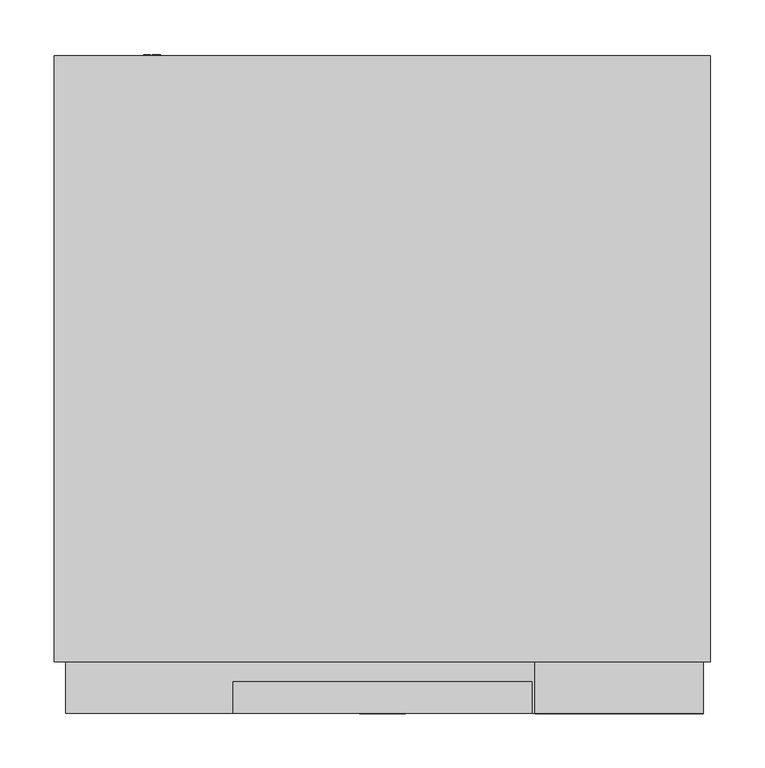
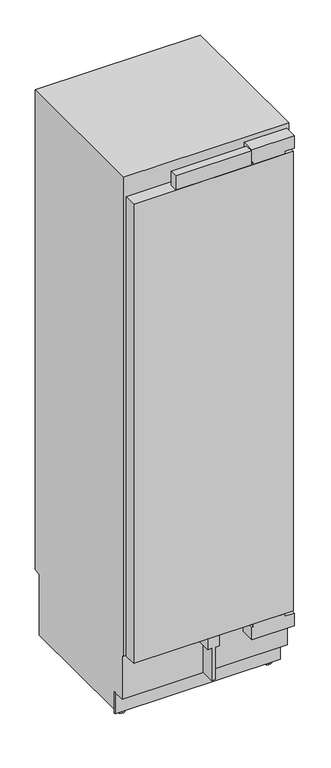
"""IFC4 building model written with IfcOpenShell, lengths in millimetres: proxy geometry, 11501360_USA_K2602Vi : 36260201_USA_11501360_K2602Vi."""

import ifcopenshell
import ifcopenshell.guid

model = None  # the IFC model being written
_history = None  # IfcOwnerHistory: only IFC2X3 demands one
_inside = {}  # id of a spatial element -> (the spatial element, [elements in it])
_under = {}  # id of a project, library or spatial element -> (it, [spatial elements below it])
_declared = {}  # id of a project -> (the project, [libraries it declares])
_typed = {}  # id of a type object -> (the type object, [elements of that type])
_made_of = {}  # id of a material, layer set ... -> (it, [elements and type objects made of it])


def new_model(schema):
    """Start an empty IFC model of exactly this schema.

    Asked for "IFC4X3", IfcOpenShell would pick the latest addendum, in which some entities
    have other attributes; the version numbers below select the first issue.
    IFC2X3 requires an IfcOwnerHistory on every rooted entity: one is made here for all.
    """
    global model, _history
    if schema == "IFC4X3":
        model = ifcopenshell.file(schema_version=(4, 3, 0, 0))
    else:
        model = ifcopenshell.file(schema=schema)
    _inside.clear()
    _under.clear()
    _declared.clear()
    _typed.clear()
    _made_of.clear()
    _history = None
    if model.schema == "IFC2X3":
        org = make("IfcOrganization", Name="unknown")
        user = make(
            "IfcPersonAndOrganization",
            ThePerson=make("IfcPerson", FamilyName="unknown"),
            TheOrganization=org,
        )
        app = make(
            "IfcApplication",
            ApplicationDeveloper=org,
            Version="unknown",
            ApplicationFullName="unknown",
            ApplicationIdentifier="unknown",
        )
        _history = make(
            "IfcOwnerHistory",
            OwningUser=user,
            OwningApplication=app,
            ChangeAction="ADDED",
            CreationDate=0,
        )
    return model


def make(cls, **values):
    """One entity of the class cls with the attributes given. An attribute that is None is left unset."""
    return model.create_entity(
        cls, **{name: value for name, value in values.items() if value is not None}
    )


def rooted(cls, **values):
    """An entity with a GlobalId (a new one), such as an element, a storey or a relation."""
    return make(cls, GlobalId=ifcopenshell.guid.new(), OwnerHistory=_history, **values)


def si_unit(unit_type, name, prefix=None):
    """IfcSIUnit, for example si_unit("LENGTHUNIT", "METRE", prefix="MILLI")."""
    return make("IfcSIUnit", UnitType=unit_type, Prefix=prefix, Name=name)


def assignment(units):
    """IfcUnitAssignment: the units of a project."""
    return None if units is None else make("IfcUnitAssignment", Units=units)


def point(xyz):
    """IfcCartesianPoint."""
    return None if xyz is None else make("IfcCartesianPoint", Coordinates=xyz)


def direction(xyz):
    """IfcDirection."""
    return None if xyz is None else make("IfcDirection", DirectionRatios=xyz)


def frame(location, z_axis=None, x_axis=None):
    """IfcAxis2Placement3D, a coordinate frame: its origin and axes. An axis left out is left unset."""
    return make(
        "IfcAxis2Placement3D",
        Location=point(location),
        Axis=direction(z_axis),
        RefDirection=direction(x_axis),
    )


def frame_2d(location, x_axis=None):
    """IfcAxis2Placement2D, a coordinate frame in the plane: its origin and x axis."""
    return make(
        "IfcAxis2Placement2D", Location=point(location), RefDirection=direction(x_axis)
    )


def origin():
    """The frame at (0, 0, 0) with its axes left unset."""
    return frame((0.0, 0.0, 0.0))


def place(relative_to, where):
    """IfcLocalPlacement: puts the frame where relative to a parent placement (None: the world)."""
    return make(
        "IfcLocalPlacement", PlacementRelTo=relative_to, RelativePlacement=where
    )


def context(
    kind, dimensions, precision=None, world=None, true_north=None, identifier=None
):
    """IfcGeometricRepresentationContext, for example the 3D "Model" context."""
    return make(
        "IfcGeometricRepresentationContext",
        ContextIdentifier=identifier,
        ContextType=kind,
        CoordinateSpaceDimension=dimensions,
        Precision=precision,
        WorldCoordinateSystem=world,
        TrueNorth=true_north,
    )


def project(units=None, contexts=None):
    """IfcProject with its units and contexts."""
    return rooted(
        "IfcProject",
        Name="project",
        RepresentationContexts=contexts,
        UnitsInContext=assignment(units),
    )


def spatial(cls, under=None, at=None, **own):
    """A site, building, storey or space (cls), placed at a placement, below another one or the project."""
    s = rooted(cls, ObjectPlacement=at, **own)
    if under is not None:
        _under.setdefault(under.id(), (under, []))[1].append(s)
    return s


def polyline(points):
    """IfcPolyline through the points."""
    return make("IfcPolyline", Points=[point(p) for p in points])


def circle_curve(where, radius):
    """IfcCircle in the frame where."""
    return make("IfcCircle", Position=where, Radius=radius)


def trimmed(basis, trim1, trim2, sense, master):
    """IfcTrimmedCurve: the piece of a basis curve between two trims."""
    return make(
        "IfcTrimmedCurve",
        BasisCurve=basis,
        Trim1=trim1,
        Trim2=trim2,
        SenseAgreement=sense,
        MasterRepresentation=master,
    )


def segment(curve, same_sense, transition):
    """IfcCompositeCurveSegment."""
    return make(
        "IfcCompositeCurveSegment",
        Transition=transition,
        SameSense=same_sense,
        ParentCurve=curve,
    )


def composite_curve(segments, self_intersect=None):
    """IfcCompositeCurve: segments joined end to end."""
    return make("IfcCompositeCurve", Segments=segments, SelfIntersect=self_intersect)


def outline(outer, holes=None, kind="AREA"):
    """IfcArbitraryClosedProfileDef: a profile drawn as a closed curve; with holes, ...WithVoids."""
    if holes is None:
        return make("IfcArbitraryClosedProfileDef", ProfileType=kind, OuterCurve=outer)
    return make(
        "IfcArbitraryProfileDefWithVoids",
        ProfileType=kind,
        OuterCurve=outer,
        InnerCurves=holes,
    )


def extrude(swept, where, along, depth):
    """IfcExtrudedAreaSolid: the profile swept, set in the frame where, extruded along a direction by depth."""
    return make(
        "IfcExtrudedAreaSolid",
        SweptArea=swept,
        Position=where,
        ExtrudedDirection=direction(along),
        Depth=depth,
    )


def shape(context_of_items, identifier, shape_type, items):
    """IfcShapeRepresentation: the items that make up one representation, for example the "Body"."""
    return make(
        "IfcShapeRepresentation",
        ContextOfItems=context_of_items,
        RepresentationIdentifier=identifier,
        RepresentationType=shape_type,
        Items=items,
    )


def source(mapping_origin, context_of_items, identifier, shape_type, items):
    """IfcRepresentationMap: a shape defined once, which mapped items show again and again."""
    return make(
        "IfcRepresentationMap",
        MappingOrigin=mapping_origin,
        MappedRepresentation=shape(context_of_items, identifier, shape_type, items),
    )


def transform(
    local_origin,
    x_axis=None,
    y_axis=None,
    z_axis=None,
    scale=None,
    scale2=None,
    scale3=None,
    uniform=True,
):
    """IfcCartesianTransformationOperator3D, or its non-uniform kind. x_axis, y_axis, z_axis: its Axis1, 2, 3."""
    if uniform:
        return make(
            "IfcCartesianTransformationOperator3D",
            Axis1=direction(x_axis),
            Axis2=direction(y_axis),
            LocalOrigin=point(local_origin),
            Scale=scale,
            Axis3=direction(z_axis),
        )
    return make(
        "IfcCartesianTransformationOperator3DnonUniform",
        Axis1=direction(x_axis),
        Axis2=direction(y_axis),
        LocalOrigin=point(local_origin),
        Scale=scale,
        Axis3=direction(z_axis),
        Scale2=scale2,
        Scale3=scale3,
    )


def mapped(mapping_source, mapping_target):
    """IfcMappedItem: shows the shape of a source again, moved by a transform."""
    return make(
        "IfcMappedItem", MappingSource=mapping_source, MappingTarget=mapping_target
    )


def made_of(thing, what):
    """Note that an element or type object is made of a material, layer set ...; save() writes the relation."""
    if what is not None:
        _made_of.setdefault(what.id(), (what, []))[1].append(thing)
    return thing


def element(
    cls,
    number,
    at=None,
    inside=None,
    cuts=None,
    type_object=None,
    material=None,
    context=None,
    identifier="Body",
    shape_type=None,
    held_by="IfcProductDefinitionShape",
    body=None,
    shapes=None,
    **own,
):
    """One element of the class cls, such as IfcWall. Its Tag is "e" and its number.

    at: its placement. inside: the storey or other place that contains it. cuts: it is an
    opening in that element (IfcRelVoidsElement). A single representation is given by context,
    identifier, shape_type and body (its items); several are given by shapes. held_by: the class
    of the entity that holds the representations. save() writes the other relations.
    """
    e = rooted(cls, Tag="e%d" % number, ObjectPlacement=at, **own)
    if body is not None:
        shapes = [shape(context, identifier, shape_type, body)]
    if shapes is not None:
        e.Representation = make(held_by, Representations=shapes)
    if inside is not None:
        _inside.setdefault(inside.id(), (inside, []))[1].append(e)
    if cuts is not None:
        rooted(
            "IfcRelVoidsElement", RelatingBuildingElement=cuts, RelatedOpeningElement=e
        )
    if type_object is not None:
        _typed.setdefault(type_object.id(), (type_object, []))[1].append(e)
    return made_of(e, material)


def aggregate(whole, parts):
    """IfcRelAggregates: a whole, such as a stair, and the parts it consists of."""
    return rooted("IfcRelAggregates", RelatingObject=whole, RelatedObjects=parts)


def save(model, path):
    """Write the relations noted so far, then the file.

    IfcRelAggregates (storeys below a building ...), IfcRelContainedInSpatialStructure (elements
    in a storey), IfcRelDefinesByType, IfcRelAssociatesMaterial and IfcRelDeclares: one each for
    every whole, place, type object, material and project.
    """
    for whole, parts in _under.values():
        aggregate(whole, parts)
    for where, things in _inside.values():
        rooted(
            "IfcRelContainedInSpatialStructure",
            RelatedElements=things,
            RelatingStructure=where,
        )
    for kind, things in _typed.values():
        rooted("IfcRelDefinesByType", RelatedObjects=things, RelatingType=kind)
    for what, things in _made_of.values():
        rooted("IfcRelAssociatesMaterial", RelatedObjects=things, RelatingMaterial=what)
    for by, libraries in _declared.values():
        rooted("IfcRelDeclares", RelatingContext=by, RelatedDefinitions=libraries)
    model.write(path)


def plane_surface(at):
    """IfcPlane: the flat surface through the origin of the frame at, square to its z axis."""
    return make("IfcPlane", Position=at)


def cylinder_surface(at, radius):
    """IfcCylindricalSurface: all points at the distance radius from the z axis of the frame at."""
    return make("IfcCylindricalSurface", Position=at, Radius=radius)


def advanced_brep(points, edges, surfaces, faces):
    """IfcAdvancedBrep: a solid bounded by faces that lie on surfaces and meet in shared edges.

    An edge is (start, end): straight between two places in points (the first is 0);
    or (start, end, curve); or (start, end, curve, False) where it runs against its curve.
    A face is (place in surfaces, loops), or (place, loops, False) where it looks against
    its surface's normal. A loop lists edges by number (the first is 1), with a minus sign
    where the edge is run from its end to its start. The first loop is the outer one.
    """
    corners = [point(p) for p in points]
    vertices = [make("IfcVertexPoint", VertexGeometry=c) for c in corners]
    made = []
    for start, end, *more in edges:
        made.append(
            make(
                "IfcEdgeCurve",
                EdgeStart=vertices[start],
                EdgeEnd=vertices[end],
                EdgeGeometry=more[0] if more else make("IfcPolyline", Points=[corners[start], corners[end]]),
                SameSense=more[1] if len(more) > 1 else True,
            )
        )
    hull = []
    for where, loops, *sense in faces:
        bounds = []
        for j, loop in enumerate(loops):
            ring = [make("IfcOrientedEdge", EdgeElement=made[abs(k) - 1], Orientation=k > 0) for k in loop]
            bounds.append(
                make(
                    "IfcFaceOuterBound" if j == 0 else "IfcFaceBound",
                    Bound=make("IfcEdgeLoop", EdgeList=ring),
                    Orientation=True,
                )
            )
        hull.append(make("IfcAdvancedFace", Bounds=bounds, FaceSurface=surfaces[where], SameSense=sense[0] if sense else True))
    return make("IfcAdvancedBrep", Outer=make("IfcClosedShell", CfsFaces=hull))


def specialty_equipment_70aed38f(model_context):
    return source(origin(), model_context, "Body", "SolidModel", [
        extrude(outline(polyline([(-291.0, 47.0), (291.0, 47.0), (291.0, 0.0), (-291.0, 0.0), (-291.0, 47.0)])), frame((0.0, 0.0, 265.0), z_axis=(0.0, 0.0, 1.0), x_axis=(1.0, 0.0, 0.0)), (0.0, 0.0, 1.0), 1771.0),
        extrude(outline(polyline([(-137.5, 29.0), (137.5, 29.0), (137.5, 0.0), (-137.5, 0.0), (-137.5, 29.0)])), frame((0.0, 0.0, 2036.0), z_axis=(0.0, 0.0, 1.0), x_axis=(1.0, 0.0, 0.0)), (0.0, 0.0, 1.0), 56.0),
        extrude(outline(polyline([(265.0, 21.0), (265.0, 0.0), (265.0, -21.0), (224.0, -21.0), (224.0, -6.5), (99.0, -6.5), (99.0, 0.0), (99.0, 6.5), (224.0, 6.5), (224.0, 21.0), (265.0, 21.0)])), frame((0.0, 0.0, 0.0), z_axis=(0.0, 1.0, 0.0), x_axis=(0.0, 0.0, 1.0)), (0.0, 0.0, 1.0), 54.0),
        extrude(outline(polyline([(87.0, 1998.0), (544.0, 1998.0), (544.0, 1791.0), (475.0, 1791.0), (447.0, 1868.0), (201.3701279, 1868.0), (156.3150905, 1940.0880598), (87.0, 1949.0), (87.0, 1998.0)])), frame((-255.5, 0.0, 0.0), z_axis=(1.0, 0.0, 0.0), x_axis=(0.0, 1.0, 0.0)), (0.0, 0.0, 1.0), 511.0),
        extrude(outline(polyline([(196.9886114, 1875.0), (195.809433, 1875.0), (158.6921935, 1934.4), (159.8713719, 1934.4), (196.9886114, 1875.0)])), frame((-69.0, 0.0, 0.0), z_axis=(1.0, 0.0, 0.0), x_axis=(0.0, 1.0, 0.0)), (0.0, 0.0, 1.0), 138.0),
        extrude(outline(polyline([(2095.0, 295.0), (2095.0, 140.0), (2047.0, 140.0), (2047.0, 146.0), (2036.5, 146.0), (2036.5, 261.0), (2047.0, 261.0), (2047.0, 295.0), (2095.0, 295.0)])), frame((0.0, 0.0, 0.0), z_axis=(0.0, 1.0, 0.0), x_axis=(0.0, 0.0, 1.0)), (0.0, 0.0, 1.0), 47.0),
        extrude(outline(polyline([(254.0, 140.0), (206.0, 140.0), (206.0, 295.0), (254.0, 295.0), (254.0, 261.0), (264.0, 261.0), (264.0, 146.0), (254.0, 146.0), (254.0, 140.0)])), frame((0.0, 0.0, 0.0), z_axis=(0.0, 1.0, 0.0), x_axis=(0.0, 0.0, 1.0)), (0.0, 0.0, 1.0), 54.0),
        extrude(outline(polyline([(99.0373308, -211.2645771), (97.7615342, -211.2645771), (97.7615342, -205.3195541), (94.7968516, -205.3195541), (94.7968516, -210.969579), (93.5246295, -210.969579), (93.5246295, -205.3415693), (90.2570046, -205.3415693), (90.2570046, -211.4619689), (88.9546219, -211.4619689), (88.9546219, -204.0443524), (99.0373308, -204.0443524), (99.0373308, -211.2645771)])), frame((0.0, 604.0, 0.0), z_axis=(0.0, 1.0, 0.0), x_axis=(0.0, 0.0, 1.0)), (0.0, 0.0, 1.0), 1.0),
        extrude(outline(polyline([(99.0458, -214.5619704), (90.2663944, -214.5619704), (90.2663944, -219.6145879), (89.0134802, -219.6145879), (89.0134802, -213.3423809), (99.0458, -213.3423809), (99.0458, -214.5619704)])), frame((0.0, 604.0, 0.0), z_axis=(0.0, 1.0, 0.0), x_axis=(0.0, 0.0, 1.0)), (0.0, 0.0, 1.0), 1.0),
        extrude(outline(composite_curve([segment(trimmed(circle_curve(frame_2d((94.0, -211.5)), 7.5), [point((86.5, -211.5))], [point((101.5, -211.5))], False, "CARTESIAN"), True, "CONTINUOUS"), segment(trimmed(circle_curve(frame_2d((94.0, -211.5)), 7.5), [point((101.5, -211.5))], [point((86.5, -211.5))], False, "CARTESIAN"), True, "CONTINUOUS")], self_intersect=False)), frame((0.0, 577.0, 0.0), z_axis=(0.0, 1.0, 0.0), x_axis=(0.0, 0.0, 1.0)), (0.0, 0.0, 1.0), 27.0),
        extrude(outline(polyline([(-301.5, 104.0), (301.5, 104.0), (301.5, 99.0), (-301.5, 99.0), (-301.5, 104.0)])), frame((0.0, 0.0, 14.0), z_axis=(0.0, 0.0, 1.0), x_axis=(1.0, 0.0, 0.0)), (0.0, 0.0, 1.0), 83.0),
        advanced_brep(
        [(-267.5, 139.0, 0.0), (-267.5, 109.0, 0.0), (-267.5, 139.0, 7.0), (-267.5, 109.0, 7.0), (-267.5, 128.7, 7.0), (-267.5, 119.3, 7.0), (-267.5, 128.7, 28.0), (-267.5, 119.3, 28.0)],
        [
            (0, 1, circle_curve(frame((-267.5, 124.0, 0.0), z_axis=(0.0, 0.0, -1.0), x_axis=(1.0, 0.0, 0.0)), 15.0)),
            (1, 0, circle_curve(frame((-267.5, 124.0, 0.0), z_axis=(0.0, 0.0, -1.0), x_axis=(1.0, 0.0, 0.0)), 15.0)),
            (2, 3, circle_curve(frame((-267.5, 124.0, 7.0), z_axis=(0.0, 0.0, 1.0), x_axis=(1.0, 0.0, 0.0)), 15.0)),
            (3, 2, circle_curve(frame((-267.5, 124.0, 7.0), z_axis=(0.0, 0.0, 1.0), x_axis=(1.0, 0.0, 0.0)), 15.0)),
            (4, 5, circle_curve(frame((-267.5, 124.0, 7.0), z_axis=(0.0, 0.0, -1.0), x_axis=(0.0, -1.0, 0.0)), 4.7)),
            (5, 4, circle_curve(frame((-267.5, 124.0, 7.0), z_axis=(0.0, 0.0, -1.0), x_axis=(0.0, -1.0, 0.0)), 4.7)),
            (0, 2),
            (3, 1),
            (6, 7, circle_curve(frame((-267.5, 124.0, 28.0), z_axis=(0.0, 0.0, 1.0), x_axis=(0.0, -1.0, 0.0)), 4.7)),
            (7, 6, circle_curve(frame((-267.5, 124.0, 28.0), z_axis=(0.0, 0.0, 1.0), x_axis=(0.0, -1.0, 0.0)), 4.7)),
            (7, 5),
            (4, 6),
        ],
        [
            plane_surface(frame((-252.5, 124.0, 0.0), z_axis=(0.0, 0.0, -1.0), x_axis=(0.0, -1.0, 0.0))),
            plane_surface(frame((-252.5, 124.0, 7.0), z_axis=(0.0, 0.0, 1.0), x_axis=(0.0, 1.0, 0.0))),
            cylinder_surface(frame((-267.5, 124.0, 7.0), z_axis=(0.0, 0.0, -1.0), x_axis=(1.0, 0.0, 0.0)), 15.0),
            plane_surface(frame((-267.5, 119.3, 28.0), z_axis=(0.0, 0.0, 1.0), x_axis=(1.0, 0.0, 0.0))),
            cylinder_surface(frame((-267.5, 124.0, 28.0), z_axis=(0.0, 0.0, -1.0), x_axis=(0.0, -1.0, 0.0)), 4.7),
        ],
        [
            (0, [[1, 2]]),
            (1, [[3, 4], [5, 6]]),
            (2, [[-1, 7, -4, 8]]),
            (2, [[-2, -8, -3, -7]]),
            (3, [[9, 10]]),
            (4, [[-10, 11, -5, 12]]),
            (4, [[-9, -12, -6, -11]]),
        ],
    ),
        advanced_brep(
        [(267.5, 139.0, 0.0), (267.5, 109.0, 0.0), (267.5, 139.0, 7.0), (267.5, 109.0, 7.0), (267.5, 128.7, 7.0), (267.5, 119.3, 7.0), (267.5, 128.7, 28.0), (267.5, 119.3, 28.0)],
        [
            (0, 1, circle_curve(frame((267.5, 124.0, 0.0), z_axis=(0.0, 0.0, -1.0), x_axis=(1.0, 0.0, 0.0)), 15.0)),
            (1, 0, circle_curve(frame((267.5, 124.0, 0.0), z_axis=(0.0, 0.0, -1.0), x_axis=(1.0, 0.0, 0.0)), 15.0)),
            (2, 3, circle_curve(frame((267.5, 124.0, 7.0), z_axis=(0.0, 0.0, 1.0), x_axis=(1.0, 0.0, 0.0)), 15.0)),
            (3, 2, circle_curve(frame((267.5, 124.0, 7.0), z_axis=(0.0, 0.0, 1.0), x_axis=(1.0, 0.0, 0.0)), 15.0)),
            (4, 5, circle_curve(frame((267.5, 124.0, 7.0), z_axis=(0.0, 0.0, -1.0), x_axis=(0.0, -1.0, 0.0)), 4.7)),
            (5, 4, circle_curve(frame((267.5, 124.0, 7.0), z_axis=(0.0, 0.0, -1.0), x_axis=(0.0, -1.0, 0.0)), 4.7)),
            (0, 2),
            (3, 1),
            (6, 7, circle_curve(frame((267.5, 124.0, 28.0), z_axis=(0.0, 0.0, 1.0), x_axis=(0.0, -1.0, 0.0)), 4.7)),
            (7, 6, circle_curve(frame((267.5, 124.0, 28.0), z_axis=(0.0, 0.0, 1.0), x_axis=(0.0, -1.0, 0.0)), 4.7)),
            (7, 5),
            (4, 6),
        ],
        [
            plane_surface(frame((-252.5, 124.0, 0.0), z_axis=(0.0, 0.0, -1.0), x_axis=(0.0, -1.0, 0.0))),
            plane_surface(frame((-252.5, 124.0, 7.0), z_axis=(0.0, 0.0, 1.0), x_axis=(0.0, 1.0, 0.0))),
            cylinder_surface(frame((267.5, 124.0, 7.0), z_axis=(0.0, 0.0, -1.0), x_axis=(1.0, 0.0, 0.0)), 15.0),
            plane_surface(frame((-267.5, 119.3, 28.0), z_axis=(0.0, 0.0, 1.0), x_axis=(1.0, 0.0, 0.0))),
            cylinder_surface(frame((267.5, 124.0, 28.0), z_axis=(0.0, 0.0, -1.0), x_axis=(0.0, -1.0, 0.0)), 4.7),
        ],
        [
            (0, [[1, 2]]),
            (1, [[3, 4], [5, 6]]),
            (2, [[-1, 7, -4, 8]]),
            (2, [[-2, -8, -3, -7]]),
            (3, [[9, 10]]),
            (4, [[-10, 11, -5, 12]]),
            (4, [[-9, -12, -6, -11]]),
        ],
    ),
        advanced_brep(
        [(301.5, 47.0, 2114.0), (301.5, 47.0, 267.0), (301.5, 54.0, 267.0), (301.5, 54.0, 97.0), (301.5, 104.0, 97.0), (301.5, 104.0, 28.0), (301.5, 577.0, 28.0), (301.5, 577.0, 263.0), (301.5, 604.0, 263.0), (301.5, 604.0, 2114.0), (-301.5, 47.0, 2114.0), (-301.5, 604.0, 2114.0), (-301.5, 604.0, 263.0), (-301.5, 577.0, 263.0), (-301.5, 577.0, 28.0), (-301.5, 104.0, 28.0), (-301.5, 104.0, 97.0), (-301.5, 54.0, 97.0), (-301.5, 54.0, 267.0), (-301.5, 47.0, 267.0), (241.5, 577.0, 28.0), (241.5, 577.0, 14.0), (-241.5, 577.0, 14.0), (-241.5, 577.0, 28.0), (241.5, 104.0, 14.0), (-241.5, 104.0, 14.0), (-241.5, 104.0, 28.0), (241.5, 104.0, 28.0), (255.5, 47.0, 1998.0), (255.5, 47.0, 343.0), (-255.5, 47.0, 343.0), (-255.5, 47.0, 1998.0), (255.5, 544.0, 1998.0), (-255.5, 544.0, 1998.0), (-255.5, 544.0, 343.0), (255.5, 544.0, 343.0), (-260.0, 202.8193473, 28.0), (-279.0, 202.8193473, 28.0), (-279.0, 153.1806527, 28.0), (-260.0, 153.1806527, 28.0), (-279.5, 525.8193473, 28.0), (-279.5, 476.1806527, 28.0), (-263.5, 476.1806527, 28.0), (-263.5, 525.8193473, 28.0), (279.0, 153.1806527, 28.0), (279.0, 202.8193473, 28.0), (260.0, 202.8193473, 28.0), (260.0, 153.1806527, 28.0), (263.5, 525.8193473, 28.0), (263.5, 476.1806527, 28.0), (279.5, 476.1806527, 28.0), (279.5, 525.8193473, 28.0), (-260.0, 203.0, 25.0), (-260.0, 153.0, 25.0), (-279.0, 153.0, 25.0), (-279.0, 203.0, 25.0), (-260.0, 178.0, 25.0), (-279.0, 178.0, 25.0), (279.0, 178.0, 25.0), (279.0, 153.0, 25.0), (279.0, 203.0, 25.0), (260.0, 203.0, 25.0), (260.0, 153.0, 25.0), (260.0, 178.0, 25.0), (-279.5, 526.0, 25.0), (-279.5, 476.0, 25.0), (-279.5, 501.0, 25.0), (-263.5, 526.0, 25.0), (-263.5, 476.0, 25.0), (-263.5, 501.0, 25.0), (263.5, 526.0, 25.0), (263.5, 476.0, 25.0), (263.5, 501.0, 25.0), (279.5, 526.0, 25.0), (279.5, 476.0, 25.0), (279.5, 501.0, 25.0)],
        [
            (0, 1),
            (1, 2),
            (2, 3),
            (3, 4),
            (4, 5),
            (5, 6),
            (6, 7),
            (7, 8),
            (8, 9),
            (9, 0),
            (10, 11),
            (11, 12),
            (12, 13),
            (13, 14),
            (14, 15),
            (15, 16),
            (16, 17),
            (17, 18),
            (18, 19),
            (19, 10),
            (9, 11),
            (10, 0),
            (8, 12),
            (7, 13),
            (6, 20),
            (20, 21),
            (21, 22),
            (22, 23),
            (23, 14),
            (21, 24),
            (24, 25),
            (25, 22),
            (4, 16),
            (15, 26),
            (26, 25),
            (24, 27),
            (27, 5),
            (3, 17),
            (2, 18),
            (1, 19),
            (28, 29),
            (29, 30),
            (30, 31),
            (31, 28),
            (32, 33),
            (33, 34),
            (34, 35),
            (35, 32),
            (35, 29),
            (28, 32),
            (34, 30),
            (33, 31),
            (23, 26),
            (36, 37),
            (37, 38),
            (38, 39),
            (39, 36),
            (40, 41),
            (41, 42),
            (42, 43),
            (43, 40),
            (27, 20),
            (44, 45),
            (45, 46),
            (46, 47),
            (47, 44),
            (48, 49),
            (49, 50),
            (50, 51),
            (51, 48),
            (52, 53, circle_curve(frame((-260.0, 178.0, 25.0), z_axis=(-1.0, 0.0, 0.0), x_axis=(0.0, -1.0, 0.0)), 25.0)),
            (53, 54),
            (54, 55, circle_curve(frame((-279.0, 178.0, 25.0), z_axis=(1.0, 0.0, 0.0), x_axis=(0.0, -1.0, 0.0)), 25.0)),
            (55, 52),
            (53, 39, circle_curve(frame((-260.0, 178.0, 25.0), z_axis=(-1.0, 0.0, 0.0), x_axis=(0.0, -1.0, 0.0)), 25.0)),
            (38, 54, circle_curve(frame((-279.0, 178.0, 25.0), z_axis=(1.0, 0.0, 0.0), x_axis=(0.0, -1.0, 0.0)), 25.0)),
            (55, 37, circle_curve(frame((-279.0, 178.0, 25.0), z_axis=(1.0, 0.0, 0.0), x_axis=(0.0, -1.0, 0.0)), 25.0)),
            (36, 52, circle_curve(frame((-260.0, 178.0, 25.0), z_axis=(-1.0, 0.0, 0.0), x_axis=(0.0, -1.0, 0.0)), 25.0)),
            (52, 56),
            (56, 53),
            (54, 57),
            (57, 55),
            (58, 59),
            (59, 60, circle_curve(frame((279.0, 178.0, 25.0), z_axis=(1.0, 0.0, 0.0), x_axis=(0.0, -1.0, 0.0)), 25.0)),
            (60, 58),
            (60, 45, circle_curve(frame((279.0, 178.0, 25.0), z_axis=(1.0, 0.0, 0.0), x_axis=(0.0, -1.0, 0.0)), 25.0)),
            (44, 59, circle_curve(frame((279.0, 178.0, 25.0), z_axis=(1.0, 0.0, 0.0), x_axis=(0.0, -1.0, 0.0)), 25.0)),
            (61, 62, circle_curve(frame((260.0, 178.0, 25.0), z_axis=(-1.0, 0.0, 0.0), x_axis=(0.0, -1.0, 0.0)), 25.0)),
            (62, 63),
            (63, 61),
            (62, 47, circle_curve(frame((260.0, 178.0, 25.0), z_axis=(-1.0, 0.0, 0.0), x_axis=(0.0, -1.0, 0.0)), 25.0)),
            (46, 61, circle_curve(frame((260.0, 178.0, 25.0), z_axis=(-1.0, 0.0, 0.0), x_axis=(0.0, -1.0, 0.0)), 25.0)),
            (64, 65, circle_curve(frame((-279.5, 501.0, 25.0), z_axis=(-1.0, 0.0, 0.0), x_axis=(0.0, -1.0, 0.0)), 25.0)),
            (65, 66),
            (66, 64),
            (65, 41, circle_curve(frame((-279.5, 501.0, 25.0), z_axis=(-1.0, 0.0, 0.0), x_axis=(0.0, -1.0, 0.0)), 25.0)),
            (40, 64, circle_curve(frame((-279.5, 501.0, 25.0), z_axis=(-1.0, 0.0, 0.0), x_axis=(0.0, -1.0, 0.0)), 25.0)),
            (64, 67),
            (67, 68, circle_curve(frame((-263.5, 501.0, 25.0), z_axis=(-1.0, 0.0, 0.0), x_axis=(0.0, -1.0, 0.0)), 25.0)),
            (68, 65),
            (43, 67, circle_curve(frame((-263.5, 501.0, 25.0), z_axis=(-1.0, 0.0, 0.0), x_axis=(0.0, -1.0, 0.0)), 25.0)),
            (68, 42, circle_curve(frame((-263.5, 501.0, 25.0), z_axis=(-1.0, 0.0, 0.0), x_axis=(0.0, -1.0, 0.0)), 25.0)),
            (67, 69),
            (69, 68),
            (70, 71, circle_curve(frame((263.5, 501.0, 25.0), z_axis=(-1.0, 0.0, 0.0), x_axis=(0.0, -1.0, 0.0)), 25.0)),
            (71, 72),
            (72, 70),
            (71, 49, circle_curve(frame((263.5, 501.0, 25.0), z_axis=(-1.0, 0.0, 0.0), x_axis=(0.0, -1.0, 0.0)), 25.0)),
            (48, 70, circle_curve(frame((263.5, 501.0, 25.0), z_axis=(-1.0, 0.0, 0.0), x_axis=(0.0, -1.0, 0.0)), 25.0)),
            (70, 73),
            (73, 74, circle_curve(frame((279.5, 501.0, 25.0), z_axis=(-1.0, 0.0, 0.0), x_axis=(0.0, -1.0, 0.0)), 25.0)),
            (74, 71),
            (51, 73, circle_curve(frame((279.5, 501.0, 25.0), z_axis=(-1.0, 0.0, 0.0), x_axis=(0.0, -1.0, 0.0)), 25.0)),
            (74, 50, circle_curve(frame((279.5, 501.0, 25.0), z_axis=(-1.0, 0.0, 0.0), x_axis=(0.0, -1.0, 0.0)), 25.0)),
            (73, 75),
            (75, 74),
            (59, 62),
            (61, 60),
        ],
        [
            plane_surface(frame((301.5, 604.0, 2114.0), z_axis=(1.0, 0.0, 0.0), x_axis=(0.0, -1.0, 0.0))),
            plane_surface(frame((-301.5, 604.0, 2114.0), z_axis=(-1.0, 0.0, 0.0), x_axis=(0.0, 1.0, 0.0))),
            plane_surface(frame((-301.5, 47.0, 2114.0), z_axis=(0.0, 0.0, 1.0), x_axis=(1.0, 0.0, 0.0))),
            plane_surface(frame((-301.5, 604.0, 2114.0), z_axis=(0.0, 1.0, 0.0), x_axis=(1.0, 0.0, 0.0))),
            plane_surface(frame((-301.5, 604.0, 263.0), z_axis=(0.0, 0.0, -1.0), x_axis=(1.0, 0.0, 0.0))),
            plane_surface(frame((-301.5, 577.0, 263.0), z_axis=(0.0, 1.0, 0.0), x_axis=(1.0, 0.0, 0.0))),
            plane_surface(frame((-301.5, 577.0, 14.0), z_axis=(0.0, 0.0, -1.0), x_axis=(1.0, 0.0, 0.0))),
            plane_surface(frame((-301.5, 104.0, 14.0), z_axis=(0.0, -1.0, 0.0), x_axis=(1.0, 0.0, 0.0))),
            plane_surface(frame((-301.5, 104.0, 97.0), z_axis=(0.0, 0.0, -1.0), x_axis=(1.0, 0.0, 0.0))),
            plane_surface(frame((-301.5, 54.0, 97.0), z_axis=(0.0, -1.0, 0.0), x_axis=(1.0, 0.0, 0.0))),
            plane_surface(frame((-301.5, 54.0, 267.0), z_axis=(0.0, 0.0, -1.0), x_axis=(1.0, 0.0, 0.0))),
            plane_surface(frame((-301.5, 47.0, 267.0), z_axis=(0.0, -1.0, 0.0), x_axis=(1.0, 0.0, 0.0))),
            plane_surface(frame((255.5, 544.0, 1998.0), z_axis=(0.0, -1.0, 0.0), x_axis=(0.0, 0.0, -1.0))),
            plane_surface(frame((255.5, 544.0, 1998.0), z_axis=(-1.0, 0.0, 0.0), x_axis=(0.0, -1.0, 0.0))),
            plane_surface(frame((255.5, 544.0, 343.0), z_axis=(0.0, 0.0, 1.0), x_axis=(0.0, -1.0, 0.0))),
            plane_surface(frame((-255.5, 544.0, 343.0), z_axis=(1.0, 0.0, 0.0), x_axis=(0.0, -1.0, 0.0))),
            plane_surface(frame((-255.5, 544.0, 1998.0), z_axis=(0.0, 0.0, -1.0), x_axis=(0.0, -1.0, 0.0))),
            plane_surface(frame((-301.5, 604.0, 28.0), z_axis=(0.0, 0.0, -1.0), x_axis=(-1.0, 0.0, 0.0))),
            plane_surface(frame((-241.5, 104.0, 28.0), z_axis=(-1.0, 0.0, 0.0), x_axis=(0.0, 0.0, -1.0))),
            plane_surface(frame((241.5, 604.0, 28.0), z_axis=(1.0, 0.0, 0.0), x_axis=(0.0, 0.0, -1.0))),
            cylinder_surface(frame((-394.1988927, 178.0, 25.0), z_axis=(1.0, 0.0, 0.0), x_axis=(0.0, -1.0, 0.0)), 25.0),
            plane_surface(frame((-260.0, 178.0, 25.0), z_axis=(1.0, 0.0, 0.0), x_axis=(0.0, -1.0, 0.0))),
            plane_surface(frame((-279.0, 178.0, 25.0), z_axis=(-1.0, 0.0, 0.0), x_axis=(0.0, -1.0, 0.0))),
            plane_surface(frame((279.0, 178.0, 25.0), z_axis=(1.0, 0.0, 0.0), x_axis=(0.0, -1.0, 0.0))),
            plane_surface(frame((260.0, 178.0, 25.0), z_axis=(-1.0, 0.0, 0.0), x_axis=(0.0, -1.0, 0.0))),
            plane_surface(frame((-279.5, 501.0, 25.0), z_axis=(-1.0, 0.0, 0.0), x_axis=(0.0, -1.0, 0.0))),
            cylinder_surface(frame((-394.1988927, 501.0, 25.0), z_axis=(1.0, 0.0, 0.0), x_axis=(0.0, -1.0, 0.0)), 25.0),
            plane_surface(frame((-263.5, 501.0, 25.0), z_axis=(1.0, 0.0, 0.0), x_axis=(0.0, -1.0, 0.0))),
            plane_surface(frame((263.5, 501.0, 25.0), z_axis=(-1.0, 0.0, 0.0), x_axis=(0.0, -1.0, 0.0))),
            plane_surface(frame((279.5, 501.0, 25.0), z_axis=(1.0, 0.0, 0.0), x_axis=(0.0, -1.0, 0.0))),
        ],
        [
            (0, [[1, 2, 3, 4, 5, 6, 7, 8, 9, 10]]),
            (1, [[11, 12, 13, 14, 15, 16, 17, 18, 19, 20]]),
            (2, [[-10, 21, -11, 22]]),
            (3, [[-9, 23, -12, -21]]),
            (4, [[-8, 24, -13, -23]]),
            (5, [[-24, -7, 25, 26, 27, 28, 29, -14]]),
            (6, [[-27, 30, 31, 32]]),
            (7, [[33, -16, 34, 35, -31, 36, 37, -5]]),
            (8, [[-4, 38, -17, -33]]),
            (9, [[-3, 39, -18, -38]]),
            (10, [[-2, 40, -19, -39]]),
            (11, [[-1, -22, -20, -40], [41, 42, 43, 44]]),
            (12, [[45, 46, 47, 48]]),
            (13, [[-48, 49, -41, 50]]),
            (14, [[-47, 51, -42, -49]]),
            (15, [[-46, 52, -43, -51]]),
            (16, [[-45, -50, -44, -52]]),
            (17, [[53, -34, -15, -29], [54, 55, 56, 57], [58, 59, 60, 61]]),
            (17, [[62, -25, -6, -37], [63, 64, 65, 66], [67, 68, 69, 70]]),
            (18, [[-53, -28, -32, -35]]),
            (19, [[-62, -36, -30, -26]]),
            (20, [[71, 72, 73, 74]]),
            (20, [[-72, 75, -56, 76]]),
            (20, [[-74, 77, -54, 78]]),
            (21, [[-71, 79, 80]]),
            (21, [[-80, -79, -78, -57, -75]]),
            (22, [[-73, 81, 82]]),
            (22, [[-81, -76, -55, -77, -82]]),
            (23, [[83, 84, 85]]),
            (23, [[-83, -85, 86, -63, 87]]),
            (24, [[88, 89, 90]]),
            (24, [[-89, 91, -65, 92, -90]]),
            (25, [[93, 94, 95]]),
            (25, [[-94, 96, -58, 97, -95]]),
            (26, [[-93, 98, 99, 100]]),
            (26, [[-98, -97, -61, 101]]),
            (26, [[-100, 102, -59, -96]]),
            (27, [[-99, 103, 104]]),
            (27, [[-104, -103, -101, -60, -102]]),
            (28, [[105, 106, 107]]),
            (28, [[-106, 108, -67, 109, -107]]),
            (26, [[-105, 110, 111, 112]]),
            (26, [[-110, -109, -70, 113]]),
            (26, [[-112, 114, -68, -108]]),
            (29, [[-111, 115, 116]]),
            (29, [[-116, -115, -113, -69, -114]]),
            (20, [[-84, 117, -88, 118]]),
            (20, [[-117, -87, -66, -91]]),
            (20, [[-118, -92, -64, -86]]),
        ],
    ),
    ])


if __name__ == "__main__":
    model = new_model("IFC4")
    model_context = context("Model", 3, world=origin())
    ifc_project = project(units=[si_unit("LENGTHUNIT", "METRE", prefix="MILLI")], contexts=[model_context])
    site = spatial("IfcSite", under=ifc_project)
    building = spatial("IfcBuilding", under=site)
    placement = place(None, origin())
    specialty_equipment_shape = specialty_equipment_70aed38f(model_context)
    element("IfcBuildingElementProxy", 1, Name="11501360_USA_K2602Vi : 36260201_USA_11501360_K2602Vi", ObjectType="11501360_USA_K2602Vi : 36260201_USA_11501360_K2602Vi", at=placement, inside=building, context=model_context, shape_type="MappedRepresentation", body=[
        mapped(specialty_equipment_shape, transform((0.0, 0.0, 0.0), x_axis=(1.0, 0.0, 0.0), y_axis=(0.0, 1.0, 0.0), z_axis=(0.0, 0.0, 1.0))),
    ])
    save(model, "model.ifc")
